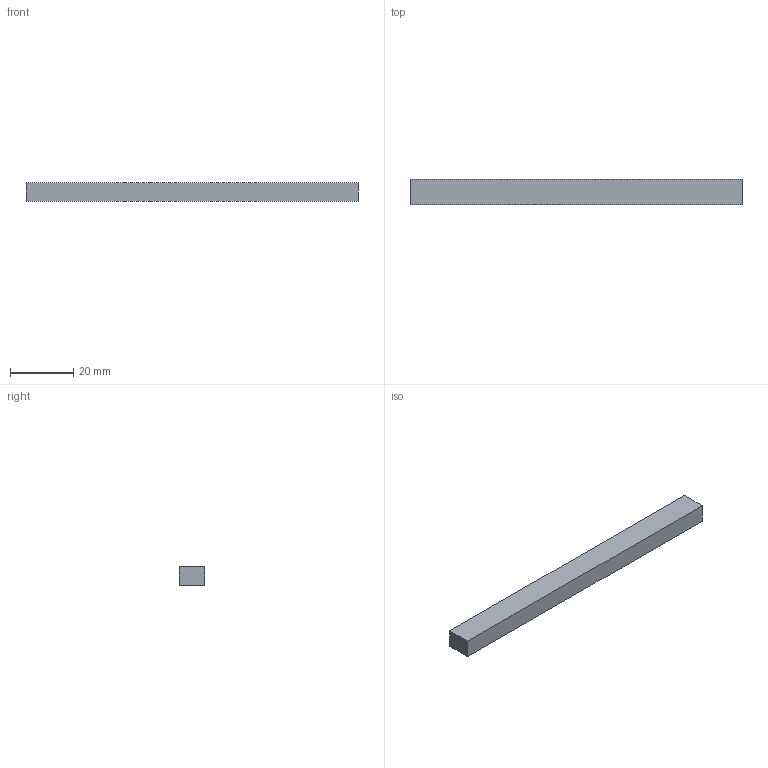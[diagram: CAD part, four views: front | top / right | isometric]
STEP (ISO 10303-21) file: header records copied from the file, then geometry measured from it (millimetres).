
FILE_DESCRIPTION(('Open CASCADE Model'),'2;1');
FILE_NAME('Open CASCADE Shape Model','2026-10-04T01:02:29',('Author'),( 'Open CASCADE'),'Open CASCADE STEP processor 8.0','Open CASCADE 8.0' ,'Unknown');
FILE_SCHEMA(('AUTOMOTIVE_DESIGN { 1 0 10303 214 1 1 1 1 }'));
Length unit declared in the file: millimetre
Products named in the file (1): Open CASCADE STEP translator 8.0 162
Bounding box: 105 x 8 x 6 mm (x, y, z)
Volume: 5040 mm3; surface area: 3036 mm2
Topology: 1 solids, 1 shells, 6 faces, 12 edges, 8 vertices
Faces by surface type: plane 6
Entity records: 322 total; most frequent: CARTESIAN_POINT 51, DIRECTION 50, LINE 36, VECTOR 36, ORIENTED_EDGE 24, PCURVE 24, DEFINITIONAL_REPRESENTATION 24, EDGE_CURVE 12
